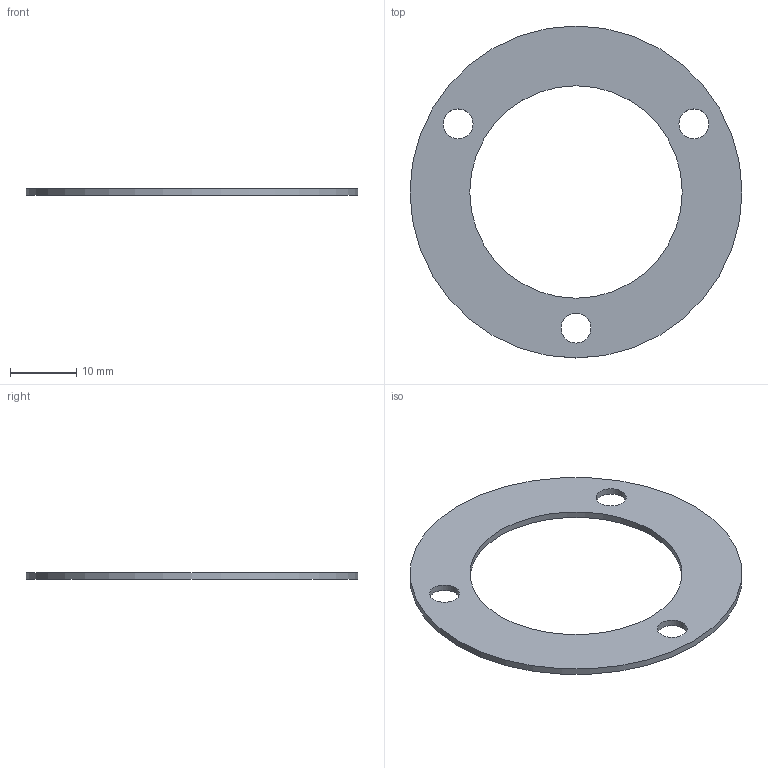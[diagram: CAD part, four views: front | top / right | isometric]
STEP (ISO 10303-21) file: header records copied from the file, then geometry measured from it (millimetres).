
FILE_DESCRIPTION(/* description */ (''),/* implementation_level */ '2;1');
FILE_NAME(/* name */ '',/* time_stamp */ '2025-10-01T16:42:23+09:00',/* author */ ('jhkim'),/* organization */ (''),/* preprocessor_version */ 'ST-DEVELOPER v20.1',/* originating_system */ 'Autodesk Inventor 2026',/* authorisation */ '');
FILE_SCHEMA (('AUTOMOTIVE_DESIGN { 1 0 10303 214 3 1 1 }'));
Length unit declared in the file: millimetre
Products named in the file (1): 가스켓
Bounding box: 50 x 50 x 1 mm (x, y, z)
Volume: 1111.5 mm3; surface area: 2523.1 mm2
Topology: 1 solids, 1 shells, 7 faces, 15 edges, 10 vertices
Faces by surface type: cylinder 5, plane 2
Full cylindrical faces by diameter (mm): 4.5 x3, 32 x1, 50 x1
Entity records: 258 total; most frequent: DIRECTION 41, CARTESIAN_POINT 33, ORIENTED_EDGE 30, AXIS2_PLACEMENT_3D 18, EDGE_LOOP 15, EDGE_CURVE 15, CIRCLE 10, VERTEX_POINT 10
